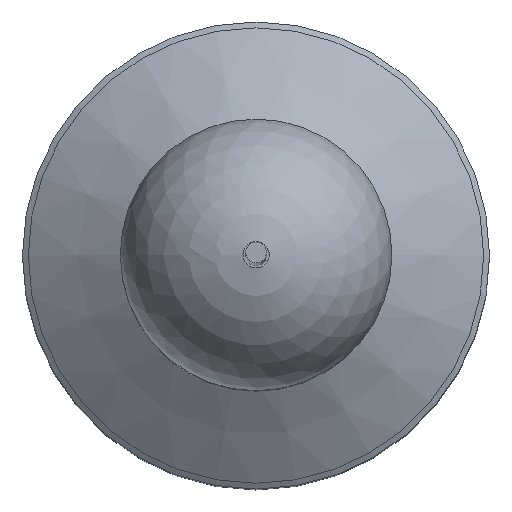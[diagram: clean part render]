
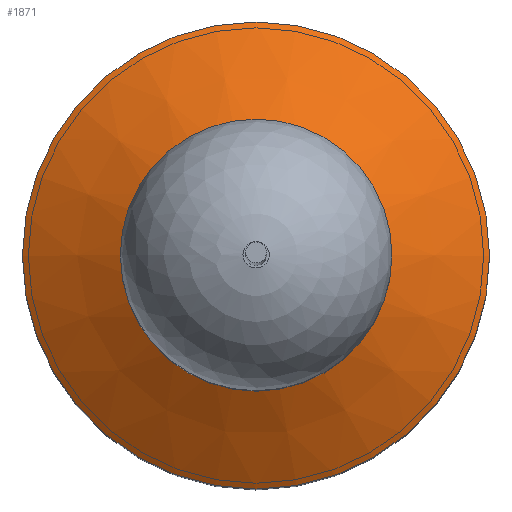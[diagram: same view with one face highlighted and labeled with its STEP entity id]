
A CAD part, top view. The second image highlights one B-rep face of the part: STEP entity #1871.
In plain terms, the highlighted conical face has half-angle 57.995 degrees and reference radius 38.881 mm.
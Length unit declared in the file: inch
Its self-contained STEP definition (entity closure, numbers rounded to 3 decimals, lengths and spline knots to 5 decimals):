
#27=CONICAL_SURFACE('',#2081,1.53075,1.012);
#268=LINE('',#3298,#443);
#443=VECTOR('',#2599,1.53075);
#603=FACE_OUTER_BOUND('',#709,.T.);
#709=EDGE_LOOP('',(#1731,#1732,#1733,#1734));
#766=CIRCLE('',#2080,1.06151);
#767=CIRCLE('',#2082,2.);
#957=VERTEX_POINT('',#3292);
#958=VERTEX_POINT('',#3296);
#1216=EDGE_CURVE('',#957,#957,#766,.T.);
#1218=EDGE_CURVE('',#958,#958,#767,.T.);
#1219=EDGE_CURVE('',#958,#957,#268,.T.);
#1731=ORIENTED_EDGE('',*,*,#1218,.F.);
#1732=ORIENTED_EDGE('',*,*,#1219,.T.);
#1733=ORIENTED_EDGE('',*,*,#1216,.T.);
#1734=ORIENTED_EDGE('',*,*,#1219,.F.);
#1871=ADVANCED_FACE('',(#603),#27,.T.);
#2080=AXIS2_PLACEMENT_3D('',#3293,#2592,#2593);
#2081=AXIS2_PLACEMENT_3D('',#3295,#2595,#2596);
#2082=AXIS2_PLACEMENT_3D('',#3297,#2597,#2598);
#2592=DIRECTION('center_axis',(0.,0.,-1.));
#2593=DIRECTION('ref_axis',(1.,0.,0.));
#2595=DIRECTION('center_axis',(0.,0.,-1.));
#2596=DIRECTION('ref_axis',(-1.,0.,0.));
#2597=DIRECTION('center_axis',(0.,0.,-1.));
#2598=DIRECTION('ref_axis',(1.,0.,0.));
#2599=DIRECTION('',(-0.848,0.,0.53));
#3292=CARTESIAN_POINT('',(1.06052,0.,6.93363));
#3293=CARTESIAN_POINT('Origin',(-0.00099,0.,6.93363));
#3295=CARTESIAN_POINT('Origin',(-0.00099,0.,6.64035));
#3296=CARTESIAN_POINT('',(1.99901,0.,6.34707));
#3297=CARTESIAN_POINT('Origin',(-0.00099,0.,6.34707));
#3298=CARTESIAN_POINT('',(1.52976,0.,6.64035));
